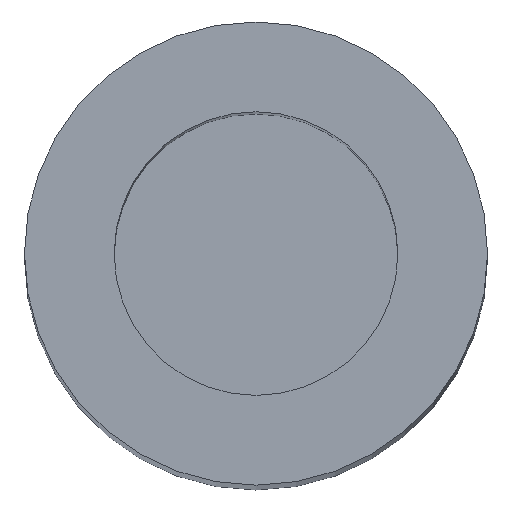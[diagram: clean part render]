
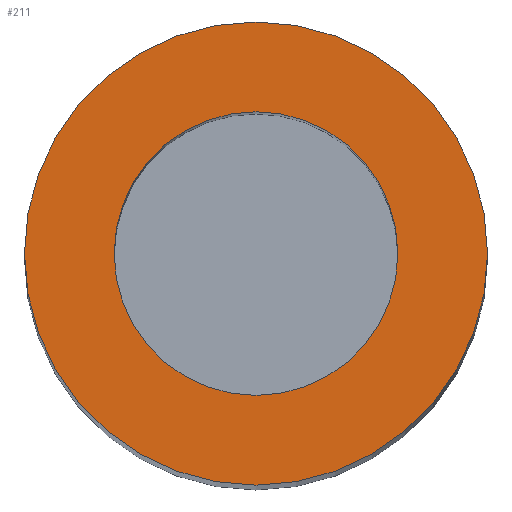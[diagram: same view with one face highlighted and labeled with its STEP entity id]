
A CAD part, top view. The second image highlights one B-rep face of the part: STEP entity #211.
In plain terms, the highlighted planar face has unit normal (0, 0, 1).
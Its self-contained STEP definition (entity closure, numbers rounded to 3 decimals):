
#5 = FACE_OUTER_BOUND ( 'NONE', #188, .T. ) ;
#8 = CIRCLE ( 'NONE', #269, 8. ) ;
#9 = FACE_BOUND ( 'NONE', #260, .T. ) ;
#12 = DIRECTION ( 'NONE',  ( 0., 0., 1. ) ) ;
#13 = AXIS2_PLACEMENT_3D ( 'NONE', #53, #253, #276 ) ;
#33 = CIRCLE ( 'NONE', #94, 4.9 ) ;
#35 = DIRECTION ( 'NONE',  ( 0., 0., 1. ) ) ;
#52 = CIRCLE ( 'NONE', #13, 8. ) ;
#53 = CARTESIAN_POINT ( 'NONE',  ( 0., 0., 96. ) ) ;
#55 = CARTESIAN_POINT ( 'NONE',  ( 0., 0., 96. ) ) ;
#62 = CIRCLE ( 'NONE', #268, 4.9 ) ;
#88 = CARTESIAN_POINT ( 'NONE',  ( 0., 0., 96. ) ) ;
#92 = EDGE_CURVE ( 'NONE', #139, #120, #33, .T. ) ;
#94 = AXIS2_PLACEMENT_3D ( 'NONE', #251, #12, #230 ) ;
#97 = EDGE_CURVE ( 'NONE', #120, #139, #62, .T. ) ;
#117 = PLANE ( 'NONE',  #285 ) ;
#120 = VERTEX_POINT ( 'NONE', #145 ) ;
#124 = CARTESIAN_POINT ( 'NONE',  ( 8., 0., 96. ) ) ;
#131 = VERTEX_POINT ( 'NONE', #124 ) ;
#139 = VERTEX_POINT ( 'NONE', #254 ) ;
#141 = VERTEX_POINT ( 'NONE', #155 ) ;
#145 = CARTESIAN_POINT ( 'NONE',  ( 4.9, 0., 96. ) ) ;
#147 = ORIENTED_EDGE ( 'NONE', *, *, #97, .F. ) ;
#148 = EDGE_CURVE ( 'NONE', #131, #141, #52, .T. ) ;
#155 = CARTESIAN_POINT ( 'NONE',  ( -8., 0., 96. ) ) ;
#165 = ORIENTED_EDGE ( 'NONE', *, *, #148, .T. ) ;
#175 = CARTESIAN_POINT ( 'NONE',  ( 0., 0., 96. ) ) ;
#188 = EDGE_LOOP ( 'NONE', ( #223, #165 ) ) ;
#192 = EDGE_CURVE ( 'NONE', #141, #131, #8, .T. ) ;
#204 = DIRECTION ( 'NONE',  ( 0., 0., 1. ) ) ;
#211 = ADVANCED_FACE ( 'NONE', ( #9, #5 ), #117, .T. ) ;
#212 = DIRECTION ( 'NONE',  ( 1., 0., 0. ) ) ;
#223 = ORIENTED_EDGE ( 'NONE', *, *, #192, .T. ) ;
#230 = DIRECTION ( 'NONE',  ( 1., 0., 0. ) ) ;
#232 = ORIENTED_EDGE ( 'NONE', *, *, #92, .F. ) ;
#238 = DIRECTION ( 'NONE',  ( 0., 0., 1. ) ) ;
#251 = CARTESIAN_POINT ( 'NONE',  ( 0., 0., 96. ) ) ;
#253 = DIRECTION ( 'NONE',  ( 0., 0., 1. ) ) ;
#254 = CARTESIAN_POINT ( 'NONE',  ( -4.9, 0., 96. ) ) ;
#260 = EDGE_LOOP ( 'NONE', ( #147, #232 ) ) ;
#268 = AXIS2_PLACEMENT_3D ( 'NONE', #175, #35, #295 ) ;
#269 = AXIS2_PLACEMENT_3D ( 'NONE', #55, #204, #212 ) ;
#276 = DIRECTION ( 'NONE',  ( 1., 0., 0. ) ) ;
#279 = DIRECTION ( 'NONE',  ( 1., 0., 0. ) ) ;
#285 = AXIS2_PLACEMENT_3D ( 'NONE', #88, #238, #279 ) ;
#295 = DIRECTION ( 'NONE',  ( 1., 0., 0. ) ) ;
